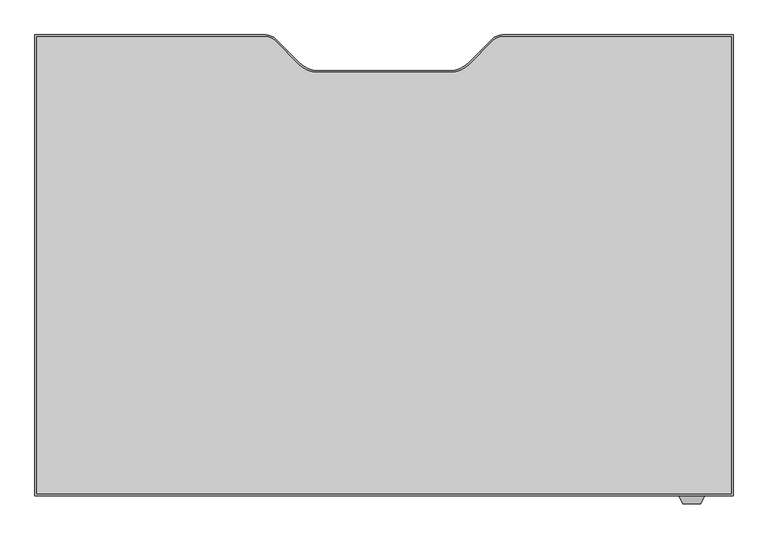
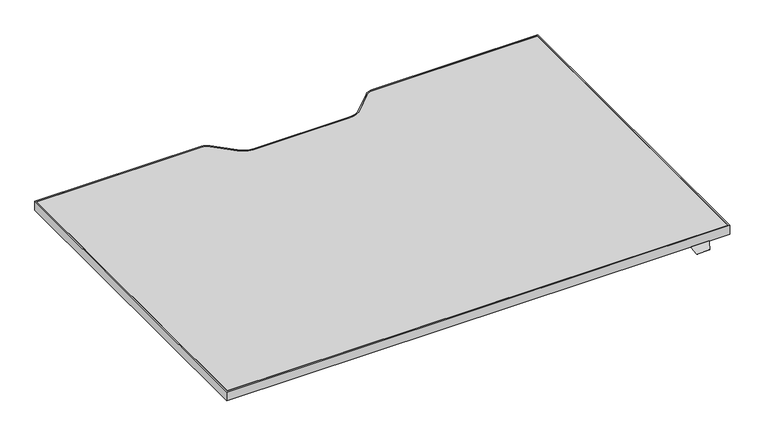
"""IFC4 building model written with IfcOpenShell, lengths in millimetres: furniture geometry, Steelcase Turnstone - Bivi - Height Adjustable Desk - T Base : 36D x 54.5W."""

from ifc_helpers import new_model, si_unit, point, frame, frame_2d, origin, place, context, project, spatial, polyline, circle_curve, trimmed, segment, composite_curve, outline, extrude, faceted_brep, source, transform, mapped, element, save


def furniture_5df7dab5(model_context):
    return source(origin(), model_context, "Body", "SolidModel", [
        faceted_brep([(246.1677913, -554.7301693, 760.9984131), (246.1677913, -552.2074599, 760.9984131), (246.1677913, -552.2074599, 762.4), (246.1677913, -554.7490853, 762.4), (246.1677913, -556.0594921, 761.3004382), (246.1677913, -556.0594921, 759.8829789), (196.5948135, -554.7490853, 762.4), (196.5948135, -552.2074599, 762.4), (196.5948135, -552.2074599, 760.9984131), (196.5948135, -554.7301693, 760.9984131), (196.5948135, -556.0594921, 759.8829789), (196.5948135, -556.0594921, 761.3004382), (239.1858363, -571.0323429, 748.7367246), (203.5767685, -571.0323429, 748.7367246), (203.2173686, -570.2616074, 747.9659891), (239.5452362, -570.2616074, 747.9659891)], [[[0, 1, 2, 3, 4, 5]], [[6, 7, 8, 9, 10, 11]], [[12, 13, 14, 15]], [[9, 0, 5, 15, 14, 10]], [[1, 0, 9, 8]], [[2, 1, 8, 7]], [[3, 2, 7, 6]], [[3, 6, 11, 13, 12, 4]], [[5, 4, 12, 15]], [[11, 10, 14, 13]]]),
        extrude(outline(composite_curve([segment(polyline([(-1081.3785908, 359.6509147), (-623.9070191, 359.6509147)]), True, "CONTINUOUS"), segment(trimmed(circle_curve(frame_2d((-623.9070191, 330.9489147)), 28.702), [point((-623.9070191, 359.6509147))], [point((-603.6116402, 351.2442935))], False, "CARTESIAN"), True, "CONTINUOUS"), segment(polyline([(-603.6116402, 351.2442935), (-556.0972358, 303.7298891)]), True, "CONTINUOUS"), segment(trimmed(circle_curve(frame_2d((-520.1762113, 339.6509136)), 50.8), [point((-556.0972358, 303.7298891))], [point((-520.1762113, 288.8509136))], True, "CARTESIAN"), True, "CONTINUOUS"), segment(polyline([(-520.1762113, 288.8509136), (-258.2809703, 288.8509136)]), True, "CONTINUOUS"), segment(trimmed(circle_curve(frame_2d((-258.2809703, 339.6509136)), 50.8), [point((-258.2809703, 288.8509136))], [point((-222.3599458, 303.7298891))], True, "CARTESIAN"), True, "CONTINUOUS"), segment(polyline([(-222.3599458, 303.7298891), (-174.8455414, 351.2442935)]), True, "CONTINUOUS"), segment(trimmed(circle_curve(frame_2d((-154.5501625, 330.9489147)), 28.702), [point((-174.8455414, 351.2442935))], [point((-154.5501625, 359.6509147))], False, "CARTESIAN"), True, "CONTINUOUS"), segment(polyline([(-154.5501625, 359.6509147), (302.9214092, 359.6509147), (302.9214092, -554.7490853), (-1081.3785908, -554.7490853), (-1081.3785908, 359.6509147)]), True, "CONTINUOUS")], self_intersect=False), holes=[composite_curve([segment(polyline([(-1077.9987543, 356.3489147), (-1077.9987543, -551.4470853), (299.6194092, -551.4470853), (299.6194092, 356.3489147), (-154.5501625, 356.3489147)]), True, "CONTINUOUS"), segment(trimmed(circle_curve(frame_2d((-154.5501625, 330.9489147)), 25.4), [point((-154.5501625, 356.3489147))], [point((-172.5106748, 348.9094269))], True, "CARTESIAN"), True, "CONTINUOUS"), segment(polyline([(-172.5106748, 348.9094269), (-220.527602, 300.8924998)]), True, "CONTINUOUS"), segment(trimmed(circle_curve(frame_2d((-256.4486265, 336.8135242)), 50.8), [point((-220.527602, 300.8924998))], [point((-256.4486265, 286.0135242))], False, "CARTESIAN"), True, "CONTINUOUS"), segment(polyline([(-256.4486265, 286.0135242), (-389.2285908, 286.0135242), (-522.0085552, 286.0135242)]), True, "CONTINUOUS"), segment(trimmed(circle_curve(frame_2d((-522.0085552, 336.8135242)), 50.8), [point((-522.0085552, 286.0135242))], [point((-557.9295796, 300.8924998))], False, "CARTESIAN"), True, "CONTINUOUS"), segment(polyline([(-557.9295796, 300.8924998), (-605.9465068, 348.9094269)]), True, "CONTINUOUS"), segment(trimmed(circle_curve(frame_2d((-623.9070191, 330.9489147)), 25.4), [point((-605.9465068, 348.9094269))], [point((-623.9070191, 356.3489147))], True, "CARTESIAN"), True, "CONTINUOUS"), segment(polyline([(-623.9070191, 356.3489147), (-1077.9987543, 356.3489147)]), True, "CONTINUOUS")], self_intersect=False)]), frame((0.0, 0.0, 762.4), z_axis=(0.0, 0.0, 1.0), x_axis=(1.0, 0.0, 0.0)), (0.0, 0.0, 1.0), 25.0),
        extrude(outline(composite_curve([segment(polyline([(-1077.9987543, 356.3489147), (-623.9070191, 356.3489147)]), True, "CONTINUOUS"), segment(trimmed(circle_curve(frame_2d((-623.9070191, 330.9489147)), 25.4), [point((-623.9070191, 356.3489147))], [point((-605.9465068, 348.9094269))], False, "CARTESIAN"), True, "CONTINUOUS"), segment(polyline([(-605.9465068, 348.9094269), (-557.9295796, 300.8924998)]), True, "CONTINUOUS"), segment(trimmed(circle_curve(frame_2d((-522.0085552, 336.8135242)), 50.8), [point((-557.9295796, 300.8924998))], [point((-522.0085552, 286.0135242))], True, "CARTESIAN"), True, "CONTINUOUS"), segment(polyline([(-522.0085552, 286.0135242), (-389.2285908, 286.0135242), (-256.4486265, 286.0135242)]), True, "CONTINUOUS"), segment(trimmed(circle_curve(frame_2d((-256.4486265, 336.8135242)), 50.8), [point((-256.4486265, 286.0135242))], [point((-220.527602, 300.8924998))], True, "CARTESIAN"), True, "CONTINUOUS"), segment(polyline([(-220.527602, 300.8924998), (-172.5106748, 348.9094269)]), True, "CONTINUOUS"), segment(trimmed(circle_curve(frame_2d((-154.5501625, 330.9489147)), 25.4), [point((-172.5106748, 348.9094269))], [point((-154.5501625, 356.3489147))], False, "CARTESIAN"), True, "CONTINUOUS"), segment(polyline([(-154.5501625, 356.3489147), (299.6194092, 356.3489147), (299.6194092, -551.4470853), (-1077.9987543, -551.4470853), (-1077.9987543, 356.3489147)]), True, "CONTINUOUS")], self_intersect=False)), frame((0.0, 0.0, 762.4), z_axis=(0.0, 0.0, 1.0), x_axis=(1.0, 0.0, 0.0)), (0.0, 0.0, 1.0), 25.0),
    ])


if __name__ == "__main__":
    model = new_model("IFC4")
    model_context = context("Model", 3, world=origin())
    ifc_project = project(units=[si_unit("LENGTHUNIT", "METRE", prefix="MILLI")], contexts=[model_context])
    site = spatial("IfcSite", under=ifc_project)
    building = spatial("IfcBuilding", under=site)
    placement = place(None, origin())
    furniture_shape = furniture_5df7dab5(model_context)
    element("IfcFurniture", 1, ObjectType="Steelcase Turnstone - Bivi - Height Adjustable Desk - T Base : 36D x 54.5W", at=placement, inside=building, context=model_context, shape_type="MappedRepresentation", body=[
        mapped(furniture_shape, transform((0.0, 0.0, 0.0), x_axis=(1.0, 0.0, 0.0), y_axis=(0.0, 1.0, 0.0), z_axis=(0.0, 0.0, 1.0))),
    ])
    save(model, "model.ifc")
